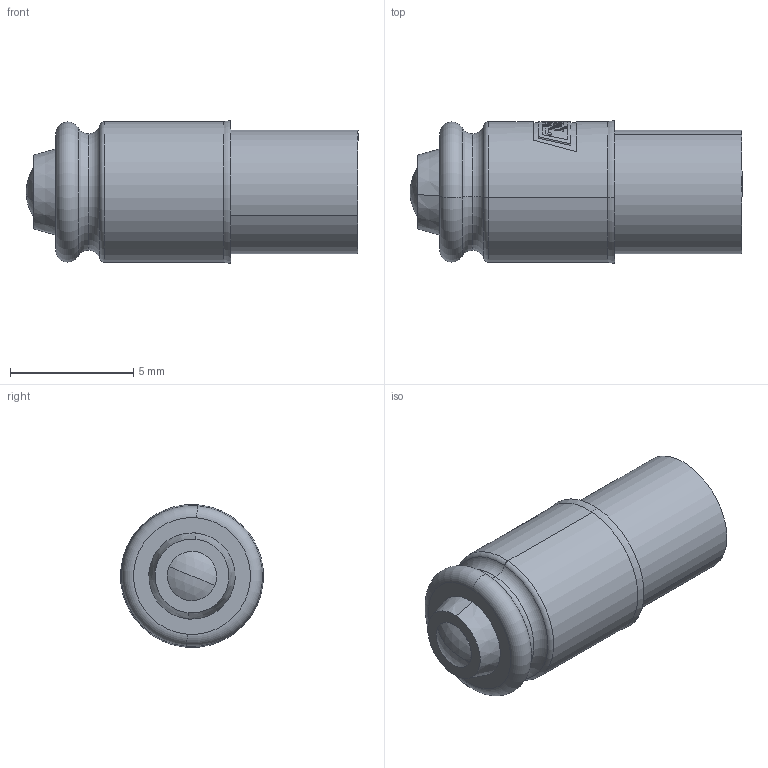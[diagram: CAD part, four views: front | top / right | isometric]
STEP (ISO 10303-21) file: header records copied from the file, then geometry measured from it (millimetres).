
FILE_DESCRIPTION (( 'STEP AP203' ), '1' );
FILE_NAME ('205 Series.STEP', '2016-08-03T09:30:46', ( '' ), ( '' ), 'SwSTEP 2.0', 'SolidWorks 2016', '' );
FILE_SCHEMA (( 'CONFIG_CONTROL_DESIGN' ));
Length unit declared in the file: millimetre
Products named in the file (5): MGCAPSTYLE1_Marl Logo; Solder1; 501F-C_Short Pins; 205 Series; Part7^205
Assembly tree (4 placements, depth 2):
  205 Series
    MGCAPSTYLE1_Marl Logo
    501F-C_Short Pins
    Solder1
    Part7^205
Bounding box: 13.46 x 5.78 x 5.78 mm (x, y, z)
Volume: 313.9 mm3; surface area: 587.7 mm2
Topology: 4 solids, 4 shells, 170 faces, 415 edges, 269 vertices
Faces by surface type: plane 116, cylinder 28, torus 22, cone 2, sphere 2
Entity records: 5562 total; most frequent: CARTESIAN_POINT 1349, ORIENTED_EDGE 830, DIRECTION 749, EDGE_CURVE 415, AXIS2_PLACEMENT_3D 305, VERTEX_POINT 269, EDGE_LOOP 188, ADVANCED_FACE 170
